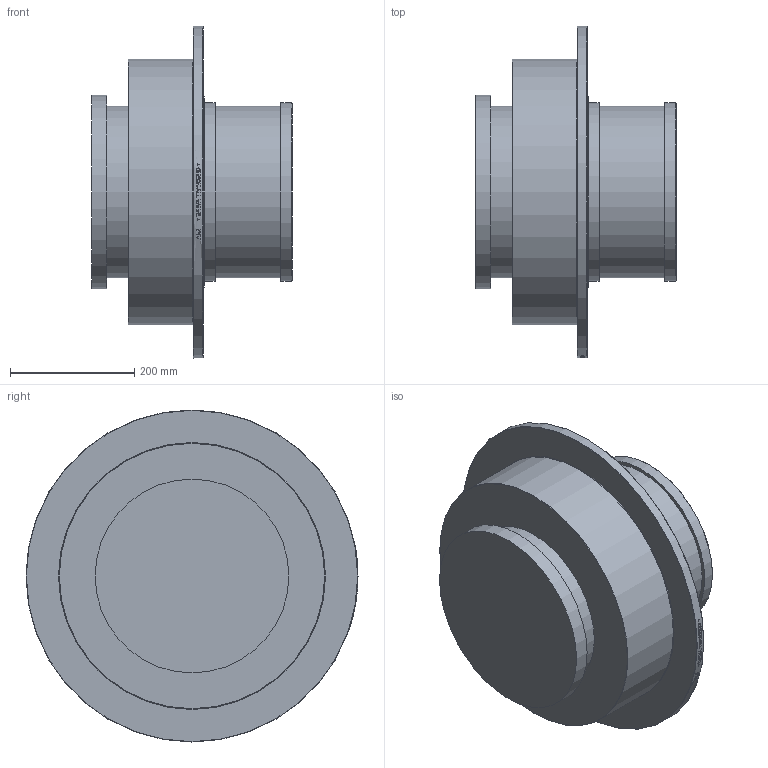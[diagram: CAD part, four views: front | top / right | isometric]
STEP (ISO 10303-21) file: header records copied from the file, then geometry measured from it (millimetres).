
FILE_DESCRIPTION( ( 'Unknown' ), '1' );
FILE_NAME( 'Y:/ENGR/3D Solid Edge Models/F1/F1 STEP/F1V.stp', 'Unknown', ( 'Unknown' ), ( 'Unknown' ), 'PSStep 14.0', 'Unknown', ' ' );
FILE_SCHEMA( ( 'AUTOMOTIVE_DESIGN { 1 0 10303 214 1 1 1 1 }' ) );
Length unit declared in the file: millimetre
Products named in the file (1): 1
Bounding box: 321.61 x 533.4 x 533.4 mm (x, y, z)
Volume: 31178128.9 mm3; surface area: 831992.8 mm2
Topology: 1 solids, 1 shells, 212 faces, 534 edges, 354 vertices
Faces by surface type: plane 128, bspline 47, cylinder 30, torus 4, cone 3
Full cylindrical faces by diameter (mm): 275.844 x2, 287.147 x2, 311.404 x1, 427.203 x1, 533.4 x1
Entity records: 10275 total; most frequent: CARTESIAN_POINT 4625, ORIENTED_EDGE 1040, EDGE_CURVE 520, B_SPLINE_CURVE_WITH_KNOTS 498, DIRECTION 376, VERTEX_POINT 354, EDGE_LOOP 256, FACE_OUTER_BOUND 223
